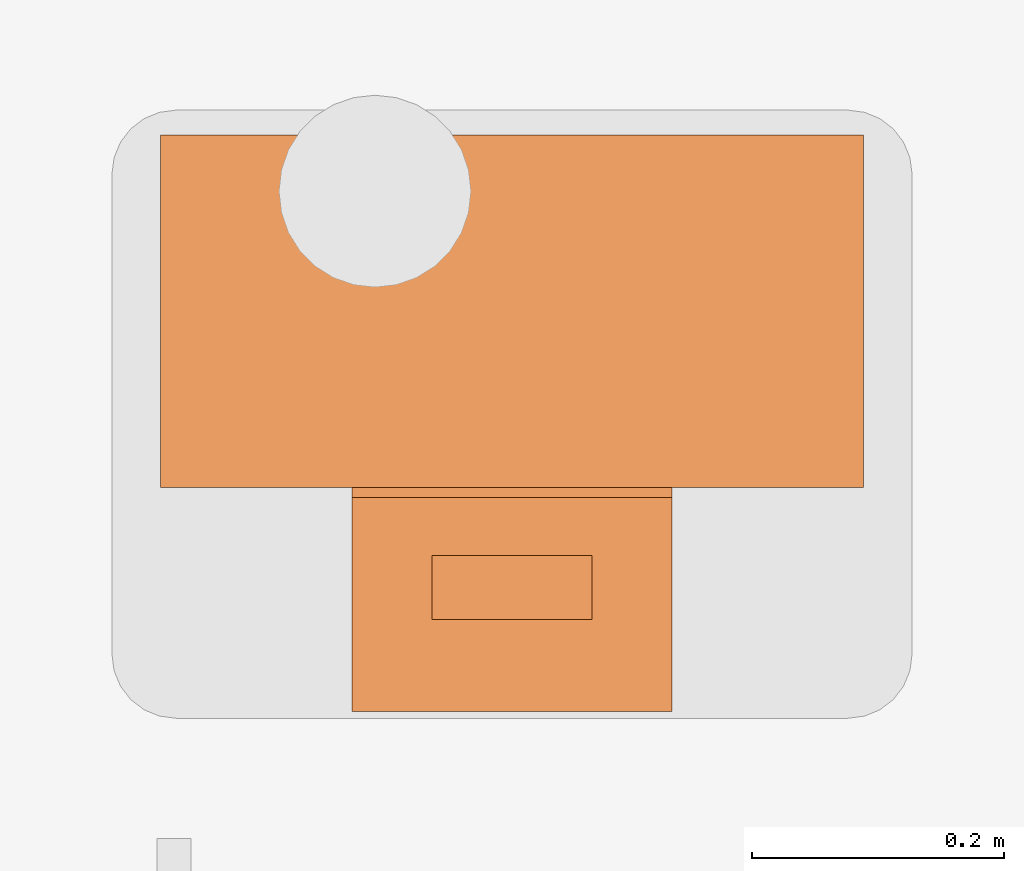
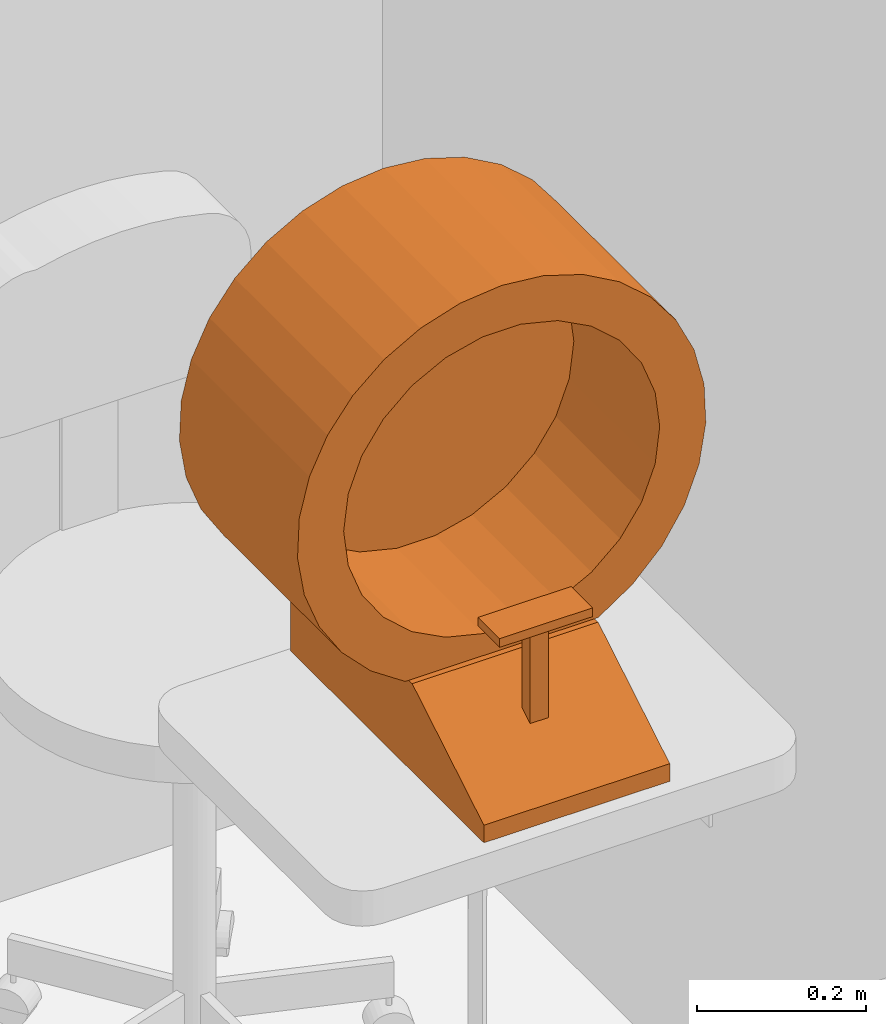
# One storey, part 11 of 11: 1 proxy.
"""IFC2X3 building model written with IfcOpenShell, lengths in feet."""

from ifc_helpers import new_model, entity, si_unit, converted_unit, derived_unit, direction, frame, origin, place, context, subcontext, project, spatial, faceted_brep, source, transform, mapped, type_object, type_shapes, element, save


model = new_model("IFC2X3")

# Units and contexts
model_context = context("Model", 3, precision=0.0001, world=origin(), true_north=direction((6.12303176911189e-17, 1.0)))
body_context = subcontext(model_context, "Body", "Model", "MODEL_VIEW")
ifc_project = project(units=[converted_unit("LENGTHUNIT", "FOOT", entity("IfcRatioMeasure", 0.3048), si_unit("LENGTHUNIT", "METRE"), dimensions=[1, 0, 0, 0, 0, 0, 0]), converted_unit("AREAUNIT", "SQUARE FOOT", entity("IfcRatioMeasure", 0.09290304), si_unit("AREAUNIT", "SQUARE_METRE"), dimensions=[2, 0, 0, 0, 0, 0, 0]), converted_unit("VOLUMEUNIT", "CUBIC FOOT", entity("IfcRatioMeasure", 0.028316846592), si_unit("VOLUMEUNIT", "CUBIC_METRE"), dimensions=[3, 0, 0, 0, 0, 0, 0]), converted_unit("PLANEANGLEUNIT", "DEGREE", entity("IfcRatioMeasure", 0.0174532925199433), si_unit("PLANEANGLEUNIT", "RADIAN"), dimensions=[0, 0, 0, 0, 0, 0, 0]), si_unit("MASSUNIT", "GRAM", prefix="KILO"), derived_unit("MASSDENSITYUNIT", [(si_unit("MASSUNIT", "GRAM", prefix="KILO"), 1), (si_unit("LENGTHUNIT", "METRE"), -3)]), si_unit("TIMEUNIT", "SECOND"), si_unit("FREQUENCYUNIT", "HERTZ"), si_unit("THERMODYNAMICTEMPERATUREUNIT", "DEGREE_CELSIUS"), derived_unit("THERMALTRANSMITTANCEUNIT", [(si_unit("MASSUNIT", "GRAM", prefix="KILO"), 1), (si_unit("THERMODYNAMICTEMPERATUREUNIT", "KELVIN"), -1), (si_unit("TIMEUNIT", "SECOND"), -3)]), derived_unit("VOLUMETRICFLOWRATEUNIT", [(si_unit("LENGTHUNIT", "METRE"), 3), (si_unit("TIMEUNIT", "SECOND"), -1)]), si_unit("ELECTRICCURRENTUNIT", "AMPERE"), si_unit("ELECTRICVOLTAGEUNIT", "VOLT"), si_unit("POWERUNIT", "WATT"), si_unit("FORCEUNIT", "NEWTON"), si_unit("ILLUMINANCEUNIT", "LUX"), si_unit("LUMINOUSFLUXUNIT", "LUMEN"), si_unit("LUMINOUSINTENSITYUNIT", "CANDELA"), derived_unit("USERDEFINED", [(si_unit("MASSUNIT", "GRAM", prefix="KILO"), -1), (si_unit("LENGTHUNIT", "METRE"), -2), (si_unit("TIMEUNIT", "SECOND"), 3), (si_unit("LUMINOUSFLUXUNIT", "LUMEN"), 1)]), derived_unit("LINEARVELOCITYUNIT", [(si_unit("LENGTHUNIT", "METRE"), 1), (si_unit("TIMEUNIT", "SECOND"), -1)]), si_unit("PRESSUREUNIT", "PASCAL"), derived_unit("USERDEFINED", [(si_unit("LENGTHUNIT", "METRE"), -2), (si_unit("MASSUNIT", "GRAM", prefix="KILO"), 1), (si_unit("TIMEUNIT", "SECOND"), -2)])], contexts=[model_context])

# Site, building, storey, space
site_placement = place(None, origin())
site = spatial("IfcSite", under=ifc_project, at=site_placement, Name="Default", CompositionType="ELEMENT")
building_placement = place(site_placement, origin())
building = spatial("IfcBuilding", under=site, at=building_placement, Name="EYE CLINIC:  OPTHALMOLOGY AND OPTOMETRY SERVICES (Ch. 233)", CompositionType="ELEMENT")
storey_placement = place(building_placement, origin())
storey = spatial("IfcBuildingStorey", under=building, at=storey_placement, Name="DATUM", CompositionType="ELEMENT", Elevation=0.0)
space_placement = place(storey_placement, origin())
space = spatial("IfcSpace", under=storey, at=space_placement, Name="(OPVF2)", CompositionType="ELEMENT", InteriorOrExteriorSpace="INTERNAL")

# Proxy
building_element_proxy_type = type_object("IfcBuildingElementProxyType", Name="M5555 - Perimeter, Automated", PredefinedType="NOTDEFINED")
shared_shape = source(origin(), body_context, "Body", "Brep", [
    faceted_brep([(0.402379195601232, -0.190262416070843, 0.683513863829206), (0.432675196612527, -0.190262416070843, 0.458333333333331), (0.587313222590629, -0.190262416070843, 0.562656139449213), (0.530195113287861, -0.190262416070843, 0.796748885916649), (0.251178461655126, -0.190262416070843, 0.604157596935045), (0.0853801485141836, -0.190262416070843, 0.563291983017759), (-0.0853801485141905, -0.190262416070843, 0.56329198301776), (-0.432675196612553, -0.190262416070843, 0.45833333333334), (-0.251178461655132, -0.190262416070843, 0.604157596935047), (-0.402379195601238, -0.190262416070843, 0.68351386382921), (-0.587313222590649, -0.190262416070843, 0.562656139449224), (-0.530195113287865, -0.190262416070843, 0.796748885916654), (-0.717630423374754, -0.190262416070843, 0.696123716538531), (-0.627198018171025, -0.190262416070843, 0.937281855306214), (-0.818230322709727, -0.190262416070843, 0.853209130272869), (-0.884947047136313, -0.190262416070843, 1.02740742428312), (-0.687750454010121, -0.190262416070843, 1.09694550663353), (-0.915017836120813, -0.190262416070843, 1.21150499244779), (-0.708333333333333, -0.190262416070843, 1.26646076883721), (-0.907197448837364, -0.190262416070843, 1.39787829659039), (-0.687750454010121, -0.190262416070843, 1.4359760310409), (-0.861809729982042, -0.190262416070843, 1.57880955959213), (-0.627198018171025, -0.190262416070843, 1.59563968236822), (-0.780734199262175, -0.190262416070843, 1.74680636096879), (-0.530195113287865, -0.190262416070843, 1.73617265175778), (-0.667328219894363, -0.190262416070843, 1.89491190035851), (-0.402379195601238, -0.190262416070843, 1.84940767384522), (-0.526287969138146, -0.190262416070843, 2.01699308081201), (-0.363453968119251, -0.190262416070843, 2.10799448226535), (-0.251178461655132, -0.190262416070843, 1.92876394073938), (-0.185569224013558, -0.190262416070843, 2.16414770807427), (-0.0853801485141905, -0.190262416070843, 1.96962955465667), (0.0, -0.190262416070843, 2.18312743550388), (0.0853801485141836, -0.190262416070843, 1.96962955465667), (0.185569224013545, -0.190262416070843, 2.16414770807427), (0.251178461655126, -0.190262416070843, 1.92876394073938), (0.363453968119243, -0.190262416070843, 2.10799448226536), (0.402379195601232, -0.190262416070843, 1.84940767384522), (0.526287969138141, -0.190262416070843, 2.01699308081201), (0.667328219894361, -0.190262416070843, 1.89491190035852), (0.530195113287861, -0.190262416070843, 1.73617265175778), (0.780734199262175, -0.190262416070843, 1.74680636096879), (0.627198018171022, -0.190262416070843, 1.59563968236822), (0.861809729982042, -0.190262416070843, 1.57880955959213), (0.687750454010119, -0.190262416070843, 1.43597603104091), (0.907197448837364, -0.190262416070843, 1.39787829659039), (0.708333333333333, -0.190262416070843, 1.26646076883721), (0.915017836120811, -0.190262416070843, 1.21150499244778), (0.687750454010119, -0.190262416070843, 1.09694550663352), (0.884947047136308, -0.190262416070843, 1.02740742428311), (0.627198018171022, -0.190262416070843, 0.937281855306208), (0.818230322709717, -0.190262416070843, 0.853209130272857), (0.717630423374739, -0.190262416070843, 0.696123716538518), (0.185569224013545, 0.726404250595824, 2.16414770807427), (0.363453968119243, 0.726404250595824, 2.10799448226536), (0.526287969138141, 0.726404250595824, 2.01699308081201), (0.667328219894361, 0.726404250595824, 1.89491190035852), (0.780734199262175, 0.726404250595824, 1.74680636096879), (0.861809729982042, 0.726404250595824, 1.57880955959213), (0.907197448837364, 0.726404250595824, 1.39787829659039), (0.915017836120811, 0.726404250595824, 1.21150499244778), (0.884947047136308, 0.726404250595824, 1.02740742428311), (0.818230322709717, 0.726404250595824, 0.853209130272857), (0.717630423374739, 0.726404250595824, 0.696123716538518), (0.587313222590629, 0.726404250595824, 0.562656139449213), (0.432675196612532, 0.726404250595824, 0.458333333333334), (-0.432675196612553, 0.726404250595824, 0.45833333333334), (-0.587313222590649, 0.726404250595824, 0.562656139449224), (-0.717630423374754, 0.726404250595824, 0.696123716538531), (-0.818230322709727, 0.726404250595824, 0.853209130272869), (-0.884947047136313, 0.726404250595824, 1.02740742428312), (-0.915017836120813, 0.726404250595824, 1.21150499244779), (-0.907197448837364, 0.726404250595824, 1.39787829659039), (-0.861809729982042, 0.726404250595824, 1.57880955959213), (-0.780734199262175, 0.726404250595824, 1.74680636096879), (-0.667328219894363, 0.726404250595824, 1.89491190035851), (-0.526287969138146, 0.726404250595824, 2.01699308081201), (-0.363453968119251, 0.726404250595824, 2.10799448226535), (-0.185569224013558, 0.726404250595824, 2.16414770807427), (0.0, 0.726404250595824, 2.18312743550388), (0.402379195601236, 0.476404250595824, 1.84940767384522), (0.25117846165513, 0.476404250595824, 1.92876394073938), (0.0853801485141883, 0.476404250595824, 1.96962955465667), (-0.0853801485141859, 0.476404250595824, 1.96962955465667), (-0.251178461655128, 0.476404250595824, 1.92876394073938), (-0.402379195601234, 0.476404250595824, 1.84940767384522), (-0.530195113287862, 0.476404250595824, 1.73617265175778), (-0.627198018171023, 0.476404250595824, 1.59563968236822), (-0.687750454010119, 0.476404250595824, 1.4359760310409), (-0.708333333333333, 0.476404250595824, 1.26646076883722), (-0.687750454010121, 0.476404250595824, 1.09694550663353), (-0.627198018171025, 0.476404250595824, 0.937281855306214), (-0.530195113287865, 0.476404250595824, 0.796748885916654), (-0.402379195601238, 0.476404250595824, 0.68351386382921), (-0.251178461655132, 0.476404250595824, 0.604157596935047), (-0.0853801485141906, 0.476404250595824, 0.56329198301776), (0.0853801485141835, 0.476404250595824, 0.563291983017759), (0.251178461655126, 0.476404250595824, 0.604157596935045), (0.402379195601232, 0.476404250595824, 0.683513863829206), (0.530195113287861, 0.476404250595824, 0.796748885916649), (0.627198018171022, 0.476404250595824, 0.937281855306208), (0.687750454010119, 0.476404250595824, 1.09694550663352), (0.708333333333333, 0.476404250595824, 1.26646076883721), (0.68775045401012, 0.476404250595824, 1.4359760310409), (0.627198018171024, 0.476404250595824, 1.59563968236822), (0.530195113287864, 0.476404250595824, 1.73617265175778)], [[[0, 1, 2]], [[3, 0, 2]], [[0, 4, 1]], [[4, 5, 1]], [[1, 5, 6]], [[6, 7, 1]], [[6, 8, 7]], [[8, 9, 7]], [[9, 10, 7]], [[10, 9, 11]], [[12, 10, 11]], [[13, 12, 11]], [[13, 14, 12]], [[14, 13, 15]], [[13, 16, 15]], [[17, 15, 16]], [[18, 17, 16]], [[17, 18, 19]], [[19, 18, 20]], [[19, 20, 21]], [[21, 20, 22]], [[22, 23, 21]], [[22, 24, 23]], [[23, 24, 25]], [[24, 26, 25]], [[26, 27, 25]], [[27, 26, 28]], [[26, 29, 28]], [[29, 30, 28]], [[31, 30, 29]], [[31, 32, 30]], [[32, 31, 33]], [[33, 34, 32]], [[33, 35, 34]], [[36, 34, 35]], [[35, 37, 36]], [[37, 38, 36]], [[37, 39, 38]], [[39, 37, 40]], [[41, 39, 40]], [[40, 42, 41]], [[42, 43, 41]], [[42, 44, 43]], [[44, 45, 43]], [[44, 46, 45]], [[47, 45, 46]], [[46, 48, 47]], [[48, 49, 47]], [[50, 49, 48]], [[50, 51, 49]], [[3, 52, 50]], [[50, 52, 51]], [[2, 52, 3]], [[53, 54, 55, 56, 57, 58, 59, 60, 61, 62, 63, 64, 65, 66, 67, 68, 69, 70, 71, 72, 73, 74, 75, 76, 77, 78, 79]], [[1, 65, 64, 2]], [[63, 52, 2, 64]], [[61, 60, 47, 49]], [[51, 62, 61, 49]], [[52, 63, 62, 51]], [[47, 60, 59, 45]], [[59, 58, 43, 45]], [[43, 58, 57, 41]], [[56, 39, 41, 57]], [[54, 53, 34, 36]], [[38, 55, 54, 36]], [[39, 56, 55, 38]], [[34, 53, 79, 32]], [[32, 79, 78, 30]], [[77, 28, 30, 78]], [[75, 74, 23, 25]], [[27, 76, 75, 25]], [[28, 77, 76, 27]], [[23, 74, 73, 21]], [[73, 72, 19, 21]], [[19, 72, 71, 17]], [[70, 15, 17, 71]], [[68, 67, 10, 12]], [[14, 69, 68, 12]], [[15, 70, 69, 14]], [[10, 67, 66, 7]], [[1, 7, 66, 65]], [[80, 81, 82, 83, 84, 85, 86, 87, 88, 89, 90, 91, 92, 93, 94, 95, 96, 97, 98, 99, 100, 101, 102, 103, 104, 105]], [[90, 89, 18, 16]], [[90, 16, 13, 91]], [[9, 8, 94, 93]], [[93, 92, 11, 9]], [[92, 91, 13, 11]], [[95, 94, 8, 6]], [[6, 5, 96, 95]], [[97, 96, 5, 4]], [[97, 4, 0, 98]], [[50, 48, 101, 100]], [[100, 99, 3, 50]], [[99, 98, 0, 3]], [[102, 101, 48, 46]], [[103, 102, 46, 44]], [[103, 44, 42, 104]], [[81, 80, 37, 35]], [[80, 105, 40, 37]], [[35, 33, 82, 81]], [[105, 104, 42, 40]], [[33, 31, 83, 82]], [[84, 83, 31, 29]], [[84, 29, 26, 85]], [[22, 20, 88, 87]], [[87, 86, 24, 22]], [[86, 85, 26, 24]], [[89, 88, 20, 18]]]),
    faceted_brep([(0.208333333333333, -0.534989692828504, 0.750000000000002), (0.208333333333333, -0.534989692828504, 0.791666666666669), (-0.208333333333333, -0.534989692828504, 0.79166666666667), (-0.208333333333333, -0.534989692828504, 0.750000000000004), (0.0, -0.534989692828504, 0.750000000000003), (0.208333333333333, -0.368323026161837, 0.750000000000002), (0.0, -0.368323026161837, 0.750000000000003), (-0.208333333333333, -0.368323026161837, 0.750000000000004), (-0.208333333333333, -0.368323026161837, 0.79166666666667), (0.208333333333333, -0.368323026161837, 0.791666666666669)], [[[0, 1, 2, 3, 4]], [[5, 6, 7, 8, 9]], [[1, 0, 5, 9]], [[2, 1, 9, 8]], [[3, 2, 8, 7]], [[4, 3, 7, 6]], [[0, 4, 6, 5]]]),
    faceted_brep([(0.0416666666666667, -0.42040635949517, 0.750000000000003), (0.0416666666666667, -0.48290635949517, 0.750000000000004), (0.0416666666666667, -0.482906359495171, 0.299093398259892), (0.0416666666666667, -0.420406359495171, 0.336524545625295), (-0.0416666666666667, -0.42040635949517, 0.750000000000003), (-0.0416666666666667, -0.420406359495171, 0.336524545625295), (-0.0416666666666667, -0.482906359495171, 0.299093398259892), (-0.0416666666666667, -0.48290635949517, 0.750000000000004)], [[[0, 1, 2, 3]], [[4, 5, 6, 7]], [[1, 0, 4, 7]], [[2, 1, 7, 6]], [[3, 2, 6, 5]], [[0, 3, 5, 4]]]),
    faceted_brep([(0.416666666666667, 0.726404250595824, 0.125000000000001), (-0.416666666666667, 0.726404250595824, 0.125000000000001), (-0.416666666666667, -0.773595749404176, 0.125000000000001), (0.416666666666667, -0.773595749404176, 0.125000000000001), (0.416666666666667, 0.726404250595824, 0.0416666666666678), (0.416666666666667, -0.773595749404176, 0.0416666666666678), (-0.416666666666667, -0.773595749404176, 0.0416666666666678), (-0.416666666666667, 0.726404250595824, 0.0416666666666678)], [[[0, 1, 2, 3]], [[4, 5, 6, 7]], [[1, 0, 4, 7]], [[2, 1, 7, 6]], [[3, 2, 6, 5]], [[0, 3, 5, 4]]]),
    faceted_brep([(0.416666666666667, 0.726404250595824, 0.458333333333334), (-0.416666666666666, 0.726404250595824, 0.458333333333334), (-0.416666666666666, -0.217018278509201, 0.458333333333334), (0.416666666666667, -0.217018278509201, 0.458333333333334), (0.416666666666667, 0.726404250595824, 0.125000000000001), (0.416666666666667, -0.773595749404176, 0.125000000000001), (-0.416666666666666, -0.773595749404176, 0.125000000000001), (-0.416666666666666, 0.726404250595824, 0.125000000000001)], [[[0, 1, 2, 3]], [[4, 5, 6, 7]], [[4, 7, 1, 0]], [[7, 6, 2, 1]], [[6, 5, 3, 2]], [[5, 4, 0, 3]]]),
    faceted_brep([(-0.31172884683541, -0.547017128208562, 0.0416666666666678), (-0.321778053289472, -0.551179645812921, 0.0416666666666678), (-0.330407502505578, -0.557801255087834, 0.0416666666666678), (-0.33702911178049, -0.56643070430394, 0.0416666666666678), (-0.341191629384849, -0.576479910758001, 0.0416666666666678), (-0.342611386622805, -0.587264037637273, 0.0416666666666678), (-0.34119162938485, -0.598048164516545, 0.0416666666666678), (-0.33702911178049, -0.608097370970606, 0.0416666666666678), (-0.330407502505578, -0.616726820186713, 0.0416666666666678), (-0.321778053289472, -0.623348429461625, 0.0416666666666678), (-0.31172884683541, -0.627510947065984, 0.0416666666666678), (-0.300944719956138, -0.62893070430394, 0.0416666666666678), (-0.290160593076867, -0.627510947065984, 0.0416666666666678), (-0.280111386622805, -0.623348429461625, 0.0416666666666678), (-0.271481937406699, -0.616726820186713, 0.0416666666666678), (-0.264860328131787, -0.608097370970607, 0.0416666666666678), (-0.260697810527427, -0.598048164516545, 0.0416666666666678), (-0.259278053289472, -0.587264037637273, 0.0416666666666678), (-0.260697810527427, -0.576479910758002, 0.0416666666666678), (-0.264860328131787, -0.56643070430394, 0.0416666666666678), (-0.271481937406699, -0.557801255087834, 0.0416666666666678), (-0.280111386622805, -0.551179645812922, 0.0416666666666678), (-0.290160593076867, -0.547017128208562, 0.0416666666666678), (-0.300944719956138, -0.545597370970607, 0.0416666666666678), (-0.31172884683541, -0.627510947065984, 0.0), (-0.321778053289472, -0.623348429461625, 0.0), (-0.330407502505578, -0.616726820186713, 0.0), (-0.33702911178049, -0.608097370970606, 0.0), (-0.34119162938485, -0.598048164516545, 0.0), (-0.342611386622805, -0.587264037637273, 0.0), (-0.341191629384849, -0.576479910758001, 0.0), (-0.33702911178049, -0.56643070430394, 0.0), (-0.330407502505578, -0.557801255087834, 0.0), (-0.321778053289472, -0.551179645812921, 0.0), (-0.31172884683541, -0.547017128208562, 0.0), (-0.300944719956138, -0.545597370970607, 0.0), (-0.290160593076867, -0.547017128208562, 0.0), (-0.280111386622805, -0.551179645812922, 0.0), (-0.271481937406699, -0.557801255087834, 0.0), (-0.264860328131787, -0.56643070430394, 0.0), (-0.260697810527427, -0.576479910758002, 0.0), (-0.259278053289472, -0.587264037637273, 0.0), (-0.260697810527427, -0.598048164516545, 0.0), (-0.264860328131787, -0.608097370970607, 0.0), (-0.271481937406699, -0.616726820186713, 0.0), (-0.280111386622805, -0.623348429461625, 0.0), (-0.290160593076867, -0.627510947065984, 0.0), (-0.300944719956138, -0.62893070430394, 0.0)], [[[0, 1, 2, 3, 4, 5, 6, 7, 8, 9, 10, 11, 12, 13, 14, 15, 16, 17, 18, 19, 20, 21, 22, 23]], [[24, 25, 26, 27, 28, 29, 30, 31, 32, 33, 34, 35, 36, 37, 38, 39, 40, 41, 42, 43, 44, 45, 46, 47]], [[28, 6, 5, 29]], [[27, 7, 6, 28]], [[9, 8, 26, 25]], [[27, 26, 8, 7]], [[10, 9, 25, 24]], [[11, 10, 24, 47]], [[46, 12, 11, 47]], [[45, 13, 12, 46]], [[15, 14, 44, 43]], [[45, 44, 14, 13]], [[16, 15, 43, 42]], [[17, 16, 42, 41]], [[40, 18, 17, 41]], [[39, 19, 18, 40]], [[21, 20, 38, 37]], [[39, 38, 20, 19]], [[22, 21, 37, 36]], [[23, 22, 36, 35]], [[34, 0, 23, 35]], [[33, 1, 0, 34]], [[3, 2, 32, 31]], [[33, 32, 2, 1]], [[4, 3, 31, 30]], [[5, 4, 30, 29]]]),
    faceted_brep([(0.311728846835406, -0.627510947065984, 0.0416666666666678), (0.321778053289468, -0.623348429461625, 0.0416666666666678), (0.330407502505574, -0.616726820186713, 0.0416666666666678), (0.337029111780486, -0.608097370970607, 0.0416666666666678), (0.341191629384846, -0.598048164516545, 0.0416666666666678), (0.342611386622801, -0.587264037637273, 0.0416666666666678), (0.341191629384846, -0.576479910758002, 0.0416666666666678), (0.337029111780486, -0.56643070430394, 0.0416666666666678), (0.330407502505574, -0.557801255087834, 0.0416666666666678), (0.321778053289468, -0.551179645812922, 0.0416666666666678), (0.311728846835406, -0.547017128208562, 0.0416666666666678), (0.300944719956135, -0.545597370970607, 0.0416666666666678), (0.290160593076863, -0.547017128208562, 0.0416666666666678), (0.280111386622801, -0.551179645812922, 0.0416666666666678), (0.271481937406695, -0.557801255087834, 0.0416666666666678), (0.264860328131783, -0.56643070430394, 0.0416666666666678), (0.260697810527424, -0.576479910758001, 0.0416666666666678), (0.259278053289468, -0.587264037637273, 0.0416666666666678), (0.260697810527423, -0.598048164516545, 0.0416666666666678), (0.264860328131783, -0.608097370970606, 0.0416666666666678), (0.271481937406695, -0.616726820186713, 0.0416666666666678), (0.280111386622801, -0.623348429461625, 0.0416666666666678), (0.290160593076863, -0.627510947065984, 0.0416666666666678), (0.300944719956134, -0.62893070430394, 0.0416666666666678), (0.311728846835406, -0.547017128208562, 0.0), (0.321778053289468, -0.551179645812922, 0.0), (0.330407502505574, -0.557801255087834, 0.0), (0.337029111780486, -0.56643070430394, 0.0), (0.341191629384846, -0.576479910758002, 0.0), (0.342611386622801, -0.587264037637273, 0.0), (0.341191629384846, -0.598048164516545, 0.0), (0.337029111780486, -0.608097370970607, 0.0), (0.330407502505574, -0.616726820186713, 0.0), (0.321778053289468, -0.623348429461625, 0.0), (0.311728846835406, -0.627510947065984, 0.0), (0.300944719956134, -0.62893070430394, 0.0), (0.290160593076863, -0.627510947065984, 0.0), (0.280111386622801, -0.623348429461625, 0.0), (0.271481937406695, -0.616726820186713, 0.0), (0.264860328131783, -0.608097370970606, 0.0), (0.260697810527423, -0.598048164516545, 0.0), (0.259278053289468, -0.587264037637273, 0.0), (0.260697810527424, -0.576479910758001, 0.0), (0.264860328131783, -0.56643070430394, 0.0), (0.271481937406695, -0.557801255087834, 0.0), (0.280111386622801, -0.551179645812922, 0.0), (0.290160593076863, -0.547017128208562, 0.0), (0.300944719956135, -0.545597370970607, 0.0)], [[[0, 1, 2, 3, 4, 5, 6, 7, 8, 9, 10, 11, 12, 13, 14, 15, 16, 17, 18, 19, 20, 21, 22, 23]], [[24, 25, 26, 27, 28, 29, 30, 31, 32, 33, 34, 35, 36, 37, 38, 39, 40, 41, 42, 43, 44, 45, 46, 47]], [[40, 18, 17, 41]], [[39, 19, 18, 40]], [[21, 20, 38, 37]], [[39, 38, 20, 19]], [[22, 21, 37, 36]], [[23, 22, 36, 35]], [[34, 0, 23, 35]], [[33, 1, 0, 34]], [[3, 2, 32, 31]], [[33, 32, 2, 1]], [[4, 3, 31, 30]], [[5, 4, 30, 29]], [[28, 6, 5, 29]], [[27, 7, 6, 28]], [[9, 8, 26, 25]], [[27, 26, 8, 7]], [[10, 9, 25, 24]], [[11, 10, 24, 47]], [[46, 12, 11, 47]], [[45, 13, 12, 46]], [[15, 14, 44, 43]], [[45, 44, 14, 13]], [[16, 15, 43, 42]], [[17, 16, 42, 41]]]),
    faceted_brep([(-0.311728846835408, 0.619649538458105, 0.0416666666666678), (-0.32177805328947, 0.615487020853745, 0.0416666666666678), (-0.330407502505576, 0.608865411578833, 0.0416666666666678), (-0.337029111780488, 0.600235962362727, 0.0416666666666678), (-0.341191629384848, 0.590186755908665, 0.0416666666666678), (-0.342611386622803, 0.579402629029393, 0.0416666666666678), (-0.341191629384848, 0.568618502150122, 0.0416666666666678), (-0.337029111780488, 0.55856929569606, 0.0416666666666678), (-0.330407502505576, 0.549939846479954, 0.0416666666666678), (-0.32177805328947, 0.543318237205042, 0.0416666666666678), (-0.311728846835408, 0.539155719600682, 0.0416666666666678), (-0.300944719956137, 0.537735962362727, 0.0416666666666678), (-0.290160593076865, 0.539155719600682, 0.0416666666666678), (-0.280111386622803, 0.543318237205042, 0.0416666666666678), (-0.271481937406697, 0.549939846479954, 0.0416666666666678), (-0.264860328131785, 0.55856929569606, 0.0416666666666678), (-0.260697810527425, 0.568618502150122, 0.0416666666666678), (-0.25927805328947, 0.579402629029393, 0.0416666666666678), (-0.260697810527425, 0.590186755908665, 0.0416666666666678), (-0.264860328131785, 0.600235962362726, 0.0416666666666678), (-0.271481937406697, 0.608865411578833, 0.0416666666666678), (-0.280111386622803, 0.615487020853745, 0.0416666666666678), (-0.290160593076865, 0.619649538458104, 0.0416666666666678), (-0.300944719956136, 0.62106929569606, 0.0416666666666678), (-0.311728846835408, 0.539155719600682, 0.0), (-0.32177805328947, 0.543318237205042, 0.0), (-0.330407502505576, 0.549939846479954, 0.0), (-0.337029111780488, 0.55856929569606, 0.0), (-0.341191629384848, 0.568618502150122, 0.0), (-0.342611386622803, 0.579402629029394, 0.0), (-0.341191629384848, 0.590186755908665, 0.0), (-0.337029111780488, 0.600235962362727, 0.0), (-0.330407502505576, 0.608865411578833, 0.0), (-0.32177805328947, 0.615487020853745, 0.0), (-0.311728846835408, 0.619649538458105, 0.0), (-0.300944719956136, 0.62106929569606, 0.0), (-0.290160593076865, 0.619649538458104, 0.0), (-0.280111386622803, 0.615487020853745, 0.0), (-0.271481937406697, 0.608865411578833, 0.0), (-0.264860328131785, 0.600235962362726, 0.0), (-0.260697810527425, 0.590186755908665, 0.0), (-0.25927805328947, 0.579402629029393, 0.0), (-0.260697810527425, 0.568618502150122, 0.0), (-0.264860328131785, 0.55856929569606, 0.0), (-0.271481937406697, 0.549939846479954, 0.0), (-0.280111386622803, 0.543318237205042, 0.0), (-0.290160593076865, 0.539155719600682, 0.0), (-0.300944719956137, 0.537735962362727, 0.0)], [[[0, 1, 2, 3, 4, 5, 6, 7, 8, 9, 10, 11, 12, 13, 14, 15, 16, 17, 18, 19, 20, 21, 22, 23]], [[24, 25, 26, 27, 28, 29, 30, 31, 32, 33, 34, 35, 36, 37, 38, 39, 40, 41, 42, 43, 44, 45, 46, 47]], [[28, 6, 5, 29]], [[27, 7, 6, 28]], [[9, 8, 26, 25]], [[27, 26, 8, 7]], [[10, 9, 25, 24]], [[11, 10, 24, 47]], [[46, 12, 11, 47]], [[45, 13, 12, 46]], [[15, 14, 44, 43]], [[45, 44, 14, 13]], [[16, 15, 43, 42]], [[17, 16, 42, 41]], [[40, 18, 17, 41]], [[39, 19, 18, 40]], [[21, 20, 38, 37]], [[39, 38, 20, 19]], [[22, 21, 37, 36]], [[23, 22, 36, 35]], [[34, 0, 23, 35]], [[33, 1, 0, 34]], [[3, 2, 32, 31]], [[33, 32, 2, 1]], [[4, 3, 31, 30]], [[5, 4, 30, 29]]]),
    faceted_brep([(0.311728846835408, 0.539155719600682, 0.0416666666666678), (0.32177805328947, 0.543318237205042, 0.0416666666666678), (0.330407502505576, 0.549939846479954, 0.0416666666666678), (0.337029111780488, 0.55856929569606, 0.0416666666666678), (0.341191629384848, 0.568618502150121, 0.0416666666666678), (0.342611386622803, 0.579402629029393, 0.0416666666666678), (0.341191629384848, 0.590186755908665, 0.0416666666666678), (0.337029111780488, 0.600235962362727, 0.0416666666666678), (0.330407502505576, 0.608865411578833, 0.0416666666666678), (0.32177805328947, 0.615487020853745, 0.0416666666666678), (0.311728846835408, 0.619649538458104, 0.0416666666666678), (0.300944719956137, 0.62106929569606, 0.0416666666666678), (0.290160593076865, 0.619649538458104, 0.0416666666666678), (0.280111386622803, 0.615487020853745, 0.0416666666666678), (0.271481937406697, 0.608865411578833, 0.0416666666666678), (0.264860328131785, 0.600235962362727, 0.0416666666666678), (0.260697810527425, 0.590186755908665, 0.0416666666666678), (0.25927805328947, 0.579402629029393, 0.0416666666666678), (0.260697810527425, 0.568618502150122, 0.0416666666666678), (0.264860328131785, 0.55856929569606, 0.0416666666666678), (0.271481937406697, 0.549939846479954, 0.0416666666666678), (0.280111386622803, 0.543318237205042, 0.0416666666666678), (0.290160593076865, 0.539155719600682, 0.0416666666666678), (0.300944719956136, 0.537735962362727, 0.0416666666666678), (0.311728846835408, 0.619649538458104, 0.0), (0.32177805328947, 0.615487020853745, 0.0), (0.330407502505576, 0.608865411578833, 0.0), (0.337029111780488, 0.600235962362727, 0.0), (0.341191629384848, 0.590186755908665, 0.0), (0.342611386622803, 0.579402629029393, 0.0), (0.341191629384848, 0.568618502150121, 0.0), (0.337029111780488, 0.55856929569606, 0.0), (0.330407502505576, 0.549939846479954, 0.0), (0.32177805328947, 0.543318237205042, 0.0), (0.311728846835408, 0.539155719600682, 0.0), (0.300944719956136, 0.537735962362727, 0.0), (0.290160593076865, 0.539155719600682, 0.0), (0.280111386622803, 0.543318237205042, 0.0), (0.271481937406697, 0.549939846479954, 0.0), (0.264860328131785, 0.55856929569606, 0.0), (0.260697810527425, 0.568618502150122, 0.0), (0.25927805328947, 0.579402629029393, 0.0), (0.260697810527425, 0.590186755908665, 0.0), (0.264860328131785, 0.600235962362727, 0.0), (0.271481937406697, 0.608865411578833, 0.0), (0.280111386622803, 0.615487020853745, 0.0), (0.290160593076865, 0.619649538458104, 0.0), (0.300944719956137, 0.62106929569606, 0.0)], [[[0, 1, 2, 3, 4, 5, 6, 7, 8, 9, 10, 11, 12, 13, 14, 15, 16, 17, 18, 19, 20, 21, 22, 23]], [[24, 25, 26, 27, 28, 29, 30, 31, 32, 33, 34, 35, 36, 37, 38, 39, 40, 41, 42, 43, 44, 45, 46, 47]], [[40, 18, 17, 41]], [[39, 19, 18, 40]], [[21, 20, 38, 37]], [[39, 38, 20, 19]], [[22, 21, 37, 36]], [[23, 22, 36, 35]], [[34, 0, 23, 35]], [[33, 1, 0, 34]], [[3, 2, 32, 31]], [[33, 32, 2, 1]], [[4, 3, 31, 30]], [[5, 4, 30, 29]], [[28, 6, 5, 29]], [[27, 7, 6, 28]], [[9, 8, 26, 25]], [[27, 26, 8, 7]], [[10, 9, 25, 24]], [[11, 10, 24, 47]], [[46, 12, 11, 47]], [[45, 13, 12, 46]], [[15, 14, 44, 43]], [[45, 44, 14, 13]], [[16, 15, 43, 42]], [[17, 16, 42, 41]]]),
])
type_shapes(building_element_proxy_type, [shared_shape])
proxy_placement = place(space_placement, frame((197.996519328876, 25.4302050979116, 3.0)))
element("IfcBuildingElementProxy", 1, at=proxy_placement, inside=space, type_object=building_element_proxy_type, Name="M5555 - Perimeter, Automated:M5555 - Perimeter, Automated", ObjectType="M5555 - Perimeter, Automated", context=body_context, shape_type="MappedRepresentation", body=[
    mapped(shared_shape, transform((0.0, 0.0, 0.0), scale=1.0)),
])

save(model, "model.ifc")
